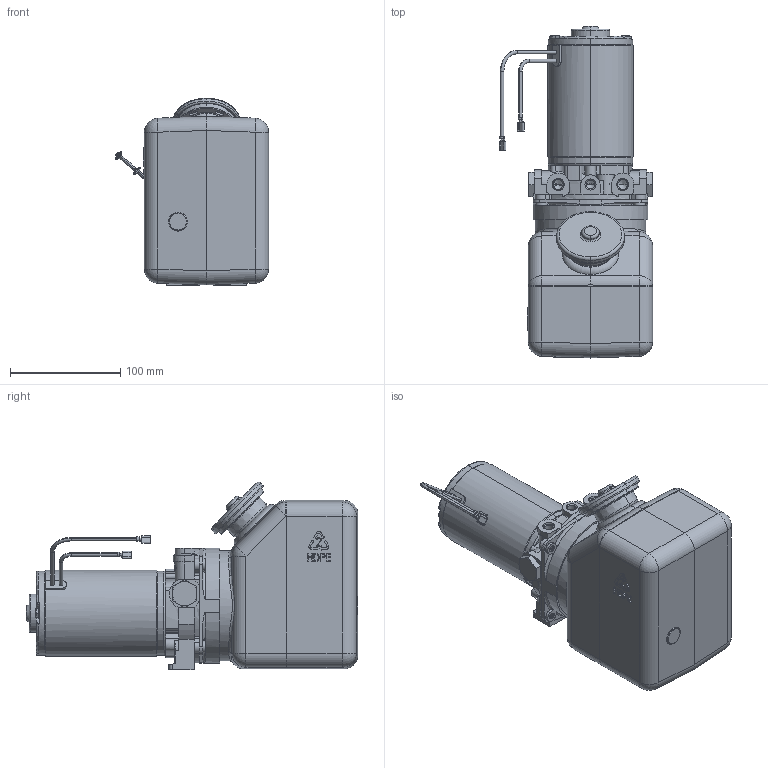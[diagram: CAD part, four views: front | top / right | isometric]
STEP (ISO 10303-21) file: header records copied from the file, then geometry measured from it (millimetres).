
FILE_DESCRIPTION((''),'2;1');
FILE_NAME('108-AE-BE-P_ASM','2010-11-10T',('dctmp01'),('OILDYNE'),'PRO/ENGINEER BY PARAMETRIC TECHNOLOGY CORPORATION, 2005380','PRO/ENGINEER BY PARAMETRIC TECHNOLOGY CORPORATION, 2005380','');
FILE_SCHEMA(('CONFIG_CONTROL_DESIGN'));
Length unit declared in the file: inch
Products named in the file (22): 108_ADAPTER_BLANK; 410497; 361182; 410728; 773764_ASM; 414239_AF0; 413926_AF0; 414231; 414231_AF0; 413924_AF0_ASM; 413925_ASM; 414230_AF0; 414229; 413738; 413921_ASM; 413740; 413741; 413127; 402664; 775556_ASM; 413742_ASM; 108-AE-BE-P_ASM
Assembly tree (24 placements, depth 5):
  108-AE-BE-P_ASM
    108_ADAPTER_BLANK
    410497
    773764_ASM  x2
      361182
      410728
    413921_ASM
      413925_ASM
        414239_AF0
        413924_AF0_ASM
          413926_AF0
          414231  x3
          414231_AF0
      414230_AF0
      414229
      413738
    413742_ASM
      413740
      413741
      775556_ASM
        413127
        402664
Bounding box: 138.97 x 300.41 x 170.13 mm (x, y, z)
Volume: 1016526.9 mm3; surface area: 306100.1 mm2
Topology: 19 solids, 19 shells, 1455 faces, 3706 edges, 2353 vertices
Faces by surface type: plane 623, cylinder 482, cone 172, torus 127, bspline 31, sphere 20
Entity records: 46572 total; most frequent: CARTESIAN_POINT 11787, DIRECTION 7363, ORIENTED_EDGE 7136, EDGE_CURVE 3568, AXIS2_PLACEMENT_3D 2752, VERTEX_POINT 2277, VECTOR 1859, LINE 1859
